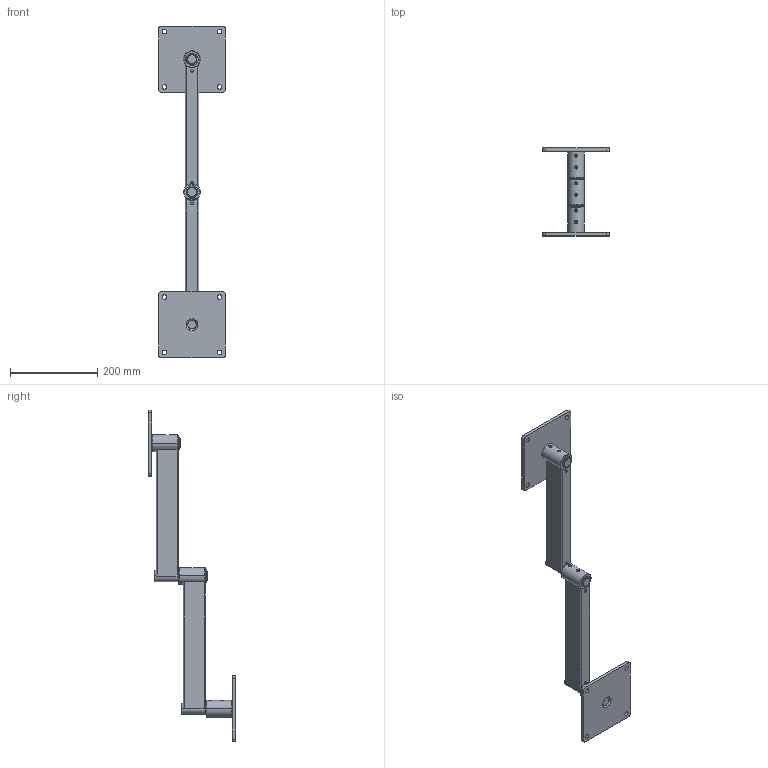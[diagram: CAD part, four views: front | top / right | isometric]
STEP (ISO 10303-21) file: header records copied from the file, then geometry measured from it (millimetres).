
FILE_DESCRIPTION (( 'STEP AP203' ), '1' );
FILE_NAME ('70-0500-00 REV AA, 24in RIGID SYSTEM, TABLE MOUNT, PIVOT PLATE - EXTENDED.STEP', '2025-07-15T21:43:40', ( '' ), ( '' ), 'SwSTEP 2.0', 'SolidWorks 2025', '' );
FILE_SCHEMA (( 'CONFIG_CONTROL_DESIGN' ));
Length unit declared in the file: inch
Products named in the file (14): 71-2113-RX REV AA, HOUSING, BEARING, TALL, 1.5OD_MACHINE; 010-012-00, RETAINING RING, EXTERNAL, .875in SHAFT; 007-036-00, SHSS, 1''4-28, .25L_007-036-00; 016-008-00, OILITE PLUS BEARING, 0.876 id x 1.002 od x 1.25 lg; 71-1012-RX REV AA, HOUSING, 12in RIGID_MACHINE; 70-1012-00 REV AA, 12in RIGID SECTION; 70-0500-00 REV AA, 24in RIGID SYSTEM, TABLE MOUNT, PIVOT PLATE - EXTENDED; 71-0193-RX REV AA, PIN, PIVOT PLATE; 016-007-00, OILITE PLUS BEARING, 0.876 id x 1.002 od x 0.75 lg; 70-0015-00 REV AA, TABLE MOUNT; 70-0106-00 REV AA, PIVOT PLATE; 71-0022-RX REV AA, PIN, RIGID SECTION; 71-0122-RX REV AA, PLATE, PIVOT PLATE
Assembly tree (25 placements, depth 3):
  70-0500-00 REV AA, 24in RIGID SYSTEM, TABLE MOUNT, PIVOT PLATE - EXTENDED
    70-0015-00 REV AA, TABLE MOUNT
      71-2113-RX REV AA, HOUSING, BEARING, TALL, 1.5OD_MACHINE
      71-0122-RX REV AA, PLATE, PIVOT PLATE
      016-007-00, OILITE PLUS BEARING, 0.876 id x 1.002 od x 0.75 lg
      016-008-00, OILITE PLUS BEARING, 0.876 id x 1.002 od x 1.25 lg
      007-036-00, SHSS, 1''4-28, .25L_007-036-00
    70-1012-00 REV AA, 12in RIGID SECTION
      71-1012-RX REV AA, HOUSING, 12in RIGID_MACHINE
      71-0022-RX REV AA, PIN, RIGID SECTION
      71-2113-RX REV AA, HOUSING, BEARING, TALL, 1.5OD_MACHINE
      016-007-00, OILITE PLUS BEARING, 0.876 id x 1.002 od x 0.75 lg
      016-008-00, OILITE PLUS BEARING, 0.876 id x 1.002 od x 1.25 lg
      007-036-00, SHSS, 1''4-28, .25L_007-036-00
    70-1012-00 REV AA, 12in RIGID SECTION
      71-1012-RX REV AA, HOUSING, 12in RIGID_MACHINE
      71-0022-RX REV AA, PIN, RIGID SECTION
      71-2113-RX REV AA, HOUSING, BEARING, TALL, 1.5OD_MACHINE
      016-007-00, OILITE PLUS BEARING, 0.876 id x 1.002 od x 0.75 lg
      016-008-00, OILITE PLUS BEARING, 0.876 id x 1.002 od x 1.25 lg
      007-036-00, SHSS, 1''4-28, .25L_007-036-00
      010-012-00, RETAINING RING, EXTERNAL, .875in SHAFT
    70-0106-00 REV AA, PIVOT PLATE
      71-0193-RX REV AA, PIN, PIVOT PLATE
      71-0122-RX REV AA, PLATE, PIVOT PLATE
      010-012-00, RETAINING RING, EXTERNAL, .875in SHAFT
Bounding box: 152.4 x 201.04 x 762 mm (x, y, z)
Volume: 809452.3 mm3; surface area: 372380.4 mm2
Topology: 21 solids, 21 shells, 505 faces, 1183 edges, 718 vertices
Faces by surface type: cylinder 214, plane 120, cone 88, torus 74, bspline 9
Entity records: 9608 total; most frequent: CARTESIAN_POINT 2674, DIRECTION 1183, ORIENTED_EDGE 1002, EDGE_CURVE 501, AXIS2_PLACEMENT_3D 495, VERTEX_POINT 310, CIRCLE 251, EDGE_LOOP 251
